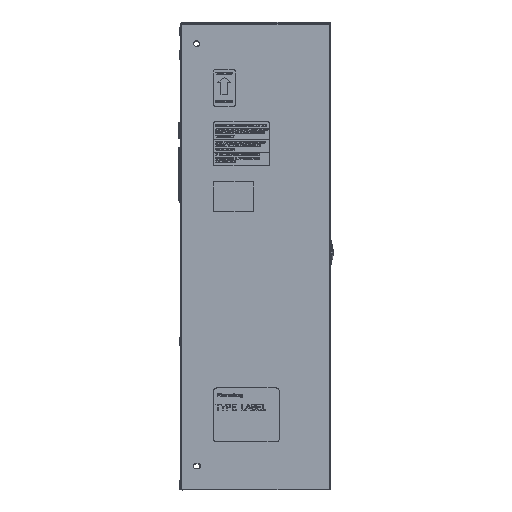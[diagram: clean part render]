
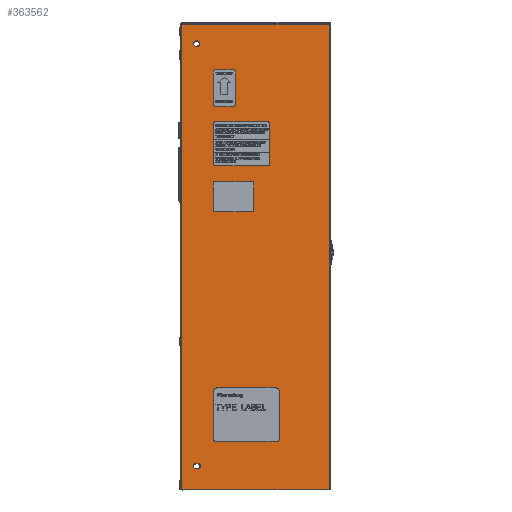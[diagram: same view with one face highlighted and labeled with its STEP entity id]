
A CAD part, top view. The second image highlights one B-rep face of the part: STEP entity #363562.
In plain terms, the highlighted planar face has unit normal (0, 0, 1).
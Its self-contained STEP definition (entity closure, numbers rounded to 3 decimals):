
#1894 = ORIENTED_EDGE ( 'NONE', *, *, #124101, .F. ) ;
#10394 = CARTESIAN_POINT ( 'NONE',  ( -1.976, -373.34, 197.5 ) ) ;
#15737 = ORIENTED_EDGE ( 'NONE', *, *, #227591, .F. ) ;
#19814 = LINE ( 'NONE', #282245, #210311 ) ;
#24614 = VERTEX_POINT ( 'NONE', #376147 ) ;
#26776 = AXIS2_PLACEMENT_3D ( 'NONE', #166199, #416813, #202183 ) ;
#30143 = CARTESIAN_POINT ( 'NONE',  ( -211.437, -335.74, 197.5 ) ) ;
#42359 = VERTEX_POINT ( 'NONE', #268598 ) ;
#43338 = EDGE_CURVE ( 'NONE', #363955, #317857, #79752, .T. ) ;
#48795 = VERTEX_POINT ( 'NONE', #231670 ) ;
#52562 = FACE_BOUND ( 'NONE', #401083, .T. ) ;
#57695 = DIRECTION ( 'NONE',  ( 0., -1., 0. ) ) ;
#63082 = AXIS2_PLACEMENT_3D ( 'NONE', #201611, #452314, #237673 ) ;
#63167 = VECTOR ( 'NONE', #298826, 1000. ) ;
#66232 = DIRECTION ( 'NONE',  ( 1., 0., 0. ) ) ;
#67768 = DIRECTION ( 'NONE',  ( -1., 0., 0. ) ) ;
#74736 = CARTESIAN_POINT ( 'NONE',  ( -211.437, -335.74, 197.5 ) ) ;
#76216 = EDGE_CURVE ( 'NONE', #278139, #439621, #84029, .T. ) ;
#77913 = LINE ( 'NONE', #239169, #447764 ) ;
#78058 = DIRECTION ( 'NONE',  ( -1., 0., 0. ) ) ;
#79752 = CIRCLE ( 'NONE', #152749, 3.962 ) ;
#84029 = LINE ( 'NONE', #10394, #263350 ) ;
#94982 = CARTESIAN_POINT ( 'NONE',  ( -211.437, -339.702, 197.5 ) ) ;
#96648 = DIRECTION ( 'NONE',  ( 1., 0., 0. ) ) ;
#110745 = DIRECTION ( 'NONE',  ( 1., 0., 0. ) ) ;
#110762 = EDGE_CURVE ( 'NONE', #24614, #289430, #461609, .T. ) ;
#116178 = ORIENTED_EDGE ( 'NONE', *, *, #155828, .T. ) ;
#121878 = ORIENTED_EDGE ( 'NONE', *, *, #420705, .F. ) ;
#124101 = EDGE_CURVE ( 'NONE', #317857, #159097, #323861, .T. ) ;
#136524 = FACE_OUTER_BOUND ( 'NONE', #431196, .T. ) ;
#149328 = ORIENTED_EDGE ( 'NONE', *, *, #392162, .T. ) ;
#152749 = AXIS2_PLACEMENT_3D ( 'NONE', #74736, #325305, #110745 ) ;
#155828 = EDGE_CURVE ( 'NONE', #278139, #24614, #357929, .T. ) ;
#158380 = LINE ( 'NONE', #441436, #63167 ) ;
#159097 = VERTEX_POINT ( 'NONE', #235426 ) ;
#166199 = CARTESIAN_POINT ( 'NONE',  ( -213.621, 338.804, 197.5 ) ) ;
#184936 = DIRECTION ( 'NONE',  ( -1., 0., 0. ) ) ;
#186741 = ORIENTED_EDGE ( 'NONE', *, *, #76216, .F. ) ;
#189113 = CIRCLE ( 'NONE', #26776, 4.765 ) ;
#193283 = ORIENTED_EDGE ( 'NONE', *, *, #463369, .F. ) ;
#198590 = CARTESIAN_POINT ( 'NONE',  ( -237.624, 371.364, 197.5 ) ) ;
#201611 = CARTESIAN_POINT ( 'NONE',  ( -215.399, -335.74, 197.5 ) ) ;
#202006 = DIRECTION ( 'NONE',  ( 0., 0., 1. ) ) ;
#202183 = DIRECTION ( 'NONE',  ( 1., 0., 0. ) ) ;
#210311 = VECTOR ( 'NONE', #67768, 1000. ) ;
#214092 = CIRCLE ( 'NONE', #63082, 3.962 ) ;
#221404 = CARTESIAN_POINT ( 'NONE',  ( -218.386, 338.804, 197.5 ) ) ;
#224885 = DIRECTION ( 'NONE',  ( 0., -1., 0. ) ) ;
#225397 = CARTESIAN_POINT ( 'NONE',  ( -1.976, 369.412, 197.5 ) ) ;
#227591 = EDGE_CURVE ( 'NONE', #297166, #459273, #189113, .T. ) ;
#231498 = EDGE_CURVE ( 'NONE', #159097, #48795, #19814, .T. ) ;
#231670 = CARTESIAN_POINT ( 'NONE',  ( -215.399, -331.778, 197.5 ) ) ;
#231794 = FACE_BOUND ( 'NONE', #425035, .T. ) ;
#235426 = CARTESIAN_POINT ( 'NONE',  ( -211.437, -331.778, 197.5 ) ) ;
#237579 = AXIS2_PLACEMENT_3D ( 'NONE', #30143, #280689, #66232 ) ;
#237673 = DIRECTION ( 'NONE',  ( 1., 0., 0. ) ) ;
#239169 = CARTESIAN_POINT ( 'NONE',  ( -211.437, -339.702, 197.5 ) ) ;
#259678 = CARTESIAN_POINT ( 'NONE',  ( -1.976, 369.412, 197.5 ) ) ;
#262750 = VECTOR ( 'NONE', #78058, 1000. ) ;
#263350 = VECTOR ( 'NONE', #224885, 1000. ) ;
#264807 = AXIS2_PLACEMENT_3D ( 'NONE', #363507, #399507, #184936 ) ;
#268598 = CARTESIAN_POINT ( 'NONE',  ( -215.399, -339.702, 197.5 ) ) ;
#278139 = VERTEX_POINT ( 'NONE', #225397 ) ;
#280689 = DIRECTION ( 'NONE',  ( 0., 0., 1. ) ) ;
#282245 = CARTESIAN_POINT ( 'NONE',  ( -211.437, -331.778, 197.5 ) ) ;
#289430 = VERTEX_POINT ( 'NONE', #439140 ) ;
#291488 = PLANE ( 'NONE',  #264807 ) ;
#293513 = VECTOR ( 'NONE', #57695, 1000. ) ;
#297166 = VERTEX_POINT ( 'NONE', #221404 ) ;
#298826 = DIRECTION ( 'NONE',  ( 1., 0., 0. ) ) ;
#302312 = CIRCLE ( 'NONE', #435411, 4.765 ) ;
#311795 = ORIENTED_EDGE ( 'NONE', *, *, #110762, .T. ) ;
#311924 = CARTESIAN_POINT ( 'NONE',  ( -207.474, -335.74, 197.5 ) ) ;
#317857 = VERTEX_POINT ( 'NONE', #311924 ) ;
#323861 = CIRCLE ( 'NONE', #237579, 3.962 ) ;
#325305 = DIRECTION ( 'NONE',  ( 0., 0., 1. ) ) ;
#339775 = ORIENTED_EDGE ( 'NONE', *, *, #398468, .F. ) ;
#343230 = ORIENTED_EDGE ( 'NONE', *, *, #43338, .F. ) ;
#357929 = LINE ( 'NONE', #259678, #262750 ) ;
#360720 = CARTESIAN_POINT ( 'NONE',  ( -1.976, -373.34, 197.5 ) ) ;
#363507 = CARTESIAN_POINT ( 'NONE',  ( -1.214, 371.364, 197.5 ) ) ;
#363562 = ADVANCED_FACE ( 'NONE', ( #52562, #231794, #136524 ), #291488, .F. ) ;
#363955 = VERTEX_POINT ( 'NONE', #94982 ) ;
#372387 = ORIENTED_EDGE ( 'NONE', *, *, #231498, .F. ) ;
#376147 = CARTESIAN_POINT ( 'NONE',  ( -237.624, 369.412, 197.5 ) ) ;
#392162 = EDGE_CURVE ( 'NONE', #289430, #439621, #158380, .T. ) ;
#398468 = EDGE_CURVE ( 'NONE', #48795, #42359, #214092, .T. ) ;
#399507 = DIRECTION ( 'NONE',  ( 0., 0., -1. ) ) ;
#401083 = EDGE_LOOP ( 'NONE', ( #121878, #15737 ) ) ;
#416627 = CARTESIAN_POINT ( 'NONE',  ( -213.621, 338.804, 197.5 ) ) ;
#416813 = DIRECTION ( 'NONE',  ( 0., 0., 1. ) ) ;
#420705 = EDGE_CURVE ( 'NONE', #459273, #297166, #302312, .T. ) ;
#425035 = EDGE_LOOP ( 'NONE', ( #372387, #1894, #343230, #193283, #339775 ) ) ;
#428588 = CARTESIAN_POINT ( 'NONE',  ( -208.856, 338.804, 197.5 ) ) ;
#431196 = EDGE_LOOP ( 'NONE', ( #116178, #311795, #149328, #186741 ) ) ;
#435411 = AXIS2_PLACEMENT_3D ( 'NONE', #416627, #202006, #452719 ) ;
#439140 = CARTESIAN_POINT ( 'NONE',  ( -237.624, -373.34, 197.5 ) ) ;
#439621 = VERTEX_POINT ( 'NONE', #360720 ) ;
#441436 = CARTESIAN_POINT ( 'NONE',  ( -1.214, -373.34, 197.5 ) ) ;
#447764 = VECTOR ( 'NONE', #96648, 1000. ) ;
#452314 = DIRECTION ( 'NONE',  ( 0., 0., 1. ) ) ;
#452719 = DIRECTION ( 'NONE',  ( 1., 0., 0. ) ) ;
#459273 = VERTEX_POINT ( 'NONE', #428588 ) ;
#461609 = LINE ( 'NONE', #198590, #293513 ) ;
#463369 = EDGE_CURVE ( 'NONE', #42359, #363955, #77913, .T. ) ;
